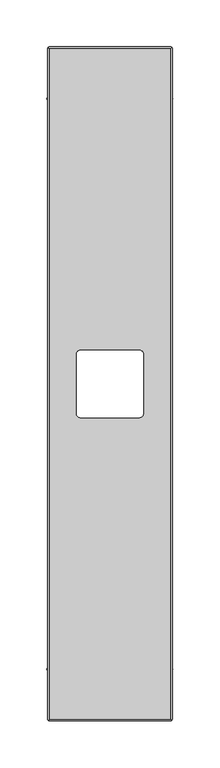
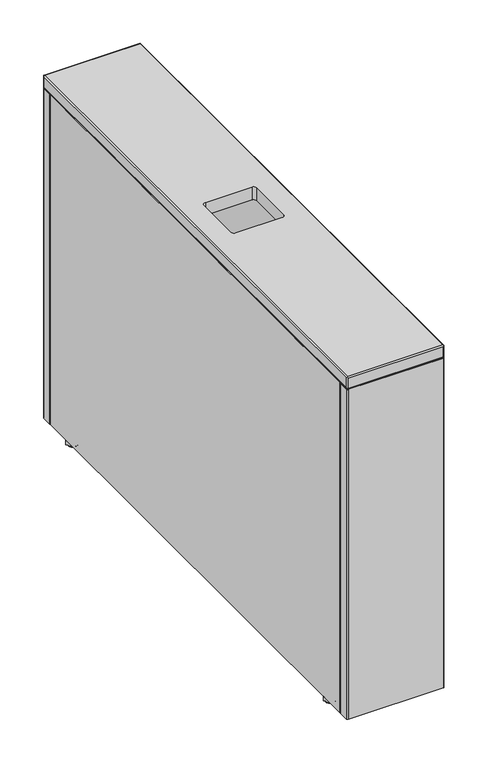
"""IFC4 building model written with IfcOpenShell, lengths in millimetres: furniture geometry, FREZZA_POP AD_Carter_for desk : Bracket_ZGBI - Embossed White."""

from ifc_helpers import new_model, si_unit, point, frame, frame_2d, origin, place, context, project, spatial, polyline, circle_curve, ellipse_curve, trimmed, segment, composite_curve, outline, extrude, source, transform, mapped, element, save
from ifc_brep_helpers import plane_surface, cylinder_surface, revolved_surface, advanced_brep


def furniture_1280791a(model_context):
    return source(origin(), model_context, "Body", "SolidModel", [
        advanced_brep(
        [(1738.25, 743.75, 0.0), (1744.5, 743.75, 0.0), (1750.75, 743.75, 0.0), (1737.25, 743.75, 1.0), (1751.75, 743.75, 1.0), (1737.25, 743.75, 2.5), (1751.75, 743.75, 2.5), (1744.5, 743.75, 2.5)],
        [
            (0, 1),
            (1, 2),
            (2, 0, circle_curve(frame((1744.5, 743.75, 0.0), z_axis=(0.0, 0.0, -1.0), x_axis=(1.0, 0.0, 0.0)), 6.25)),
            (0, 2, circle_curve(frame((1744.5, 743.75, 0.0), z_axis=(0.0, 0.0, -1.0), x_axis=(1.0, 0.0, 0.0)), 6.25)),
            (3, 0, circle_curve(frame((1738.25, 743.75, 1.0), z_axis=(0.0, -1.0, 0.0), x_axis=(-1.0, 0.0, 0.0)), 1.0)),
            (2, 4, circle_curve(frame((1750.75, 743.75, 1.0), z_axis=(0.0, -1.0, 0.0), x_axis=(1.0, 0.0, 0.0)), 1.0)),
            (4, 3, circle_curve(frame((1744.5, 743.75, 1.0), z_axis=(0.0, 0.0, -1.0), x_axis=(1.0, 0.0, 0.0)), 7.25)),
            (3, 4, circle_curve(frame((1744.5, 743.75, 1.0), z_axis=(0.0, 0.0, -1.0), x_axis=(1.0, 0.0, 0.0)), 7.25)),
            (5, 3),
            (4, 6),
            (6, 5, circle_curve(frame((1744.5, 743.75, 2.5), z_axis=(0.0, 0.0, -1.0), x_axis=(1.0, 0.0, 0.0)), 7.25)),
            (5, 6, circle_curve(frame((1744.5, 743.75, 2.5), z_axis=(0.0, 0.0, -1.0), x_axis=(1.0, 0.0, 0.0)), 7.25)),
            (7, 5),
            (6, 7),
        ],
        [
            plane_surface(frame((1744.5, 743.75, 0.0), z_axis=(0.0, 0.0, -1.0), x_axis=(1.0, 0.0, 0.0))),
            revolved_surface(trimmed(ellipse_curve(frame((1750.75, 743.75, 1.0), z_axis=(0.0, -1.0, 0.0), x_axis=(1.0, 0.0, 0.0)), 1.0, 1.0), [point((1750.75, 743.75, 0.0))], [point((1751.75, 743.75, 1.0))], True, "CARTESIAN"), (1744.5, 743.75, 2.5), (0.0, 0.0, 1.0)),
            cylinder_surface(frame((1744.5, 743.75, 2.5), z_axis=(0.0, 0.0, 1.0), x_axis=(1.0, 0.0, 0.0)), 7.25),
            plane_surface(frame((1744.5, 743.75, 2.5), z_axis=(0.0, 0.0, 1.0), x_axis=(1.0, 0.0, 0.0))),
        ],
        [
            (0, [[1, 2, 3]]),
            (0, [[-2, -1, 4]]),
            (1, [[5, -3, 6, 7]]),
            (1, [[-6, -4, -5, 8]]),
            (2, [[9, -7, 10, 11]]),
            (2, [[-10, -8, -9, 12]]),
            (3, [[13, -11, 14]]),
            (3, [[-14, -12, -13]]),
        ],
    ),
        extrude(outline(polyline([(1749.4074773, 735.25), (1739.5925227, 735.25), (1734.6850454, 743.75), (1739.5925227, 752.25), (1749.4074773, 752.25), (1754.3149546, 743.75), (1749.4074773, 735.25)])), frame((0.0, 0.0, 2.5), z_axis=(0.0, 0.0, 1.0), x_axis=(1.0, 0.0, 0.0)), (0.0, 0.0, 1.0), 5.5),
        advanced_brep(
        [(1629.5, 743.75, 0.0), (1635.75, 743.75, 0.0), (1623.25, 743.75, 0.0), (1636.75, 743.75, 1.0), (1622.25, 743.75, 1.0), (1636.75, 743.75, 2.5), (1622.25, 743.75, 2.5), (1629.5, 743.75, 2.5)],
        [
            (0, 1),
            (1, 2, circle_curve(frame((1629.5, 743.75, 0.0), z_axis=(0.0, 0.0, -1.0), x_axis=(-1.0, 0.0, 0.0)), 6.25)),
            (2, 0),
            (2, 1, circle_curve(frame((1629.5, 743.75, 0.0), z_axis=(0.0, 0.0, -1.0), x_axis=(-1.0, 0.0, 0.0)), 6.25)),
            (1, 3, circle_curve(frame((1635.75, 743.75, 1.0), z_axis=(0.0, -1.0, 0.0), x_axis=(1.0, 0.0, 0.0)), 1.0)),
            (3, 4, circle_curve(frame((1629.5, 743.75, 1.0), z_axis=(0.0, 0.0, -1.0), x_axis=(-1.0, 0.0, 0.0)), 7.25)),
            (4, 2, circle_curve(frame((1623.25, 743.75, 1.0), z_axis=(0.0, -1.0, 0.0), x_axis=(-1.0, 0.0, 0.0)), 1.0)),
            (4, 3, circle_curve(frame((1629.5, 743.75, 1.0), z_axis=(0.0, 0.0, -1.0), x_axis=(-1.0, 0.0, 0.0)), 7.25)),
            (3, 5),
            (5, 6, circle_curve(frame((1629.5, 743.75, 2.5), z_axis=(0.0, 0.0, -1.0), x_axis=(-1.0, 0.0, 0.0)), 7.25)),
            (6, 4),
            (6, 5, circle_curve(frame((1629.5, 743.75, 2.5), z_axis=(0.0, 0.0, -1.0), x_axis=(-1.0, 0.0, 0.0)), 7.25)),
            (5, 7),
            (7, 6),
        ],
        [
            plane_surface(frame((1629.5, 743.75, 0.0), z_axis=(0.0, 0.0, -1.0), x_axis=(-1.0, 0.0, 0.0))),
            revolved_surface(trimmed(ellipse_curve(frame((1623.25, 743.75, 1.0), z_axis=(0.0, -1.0, 0.0), x_axis=(-1.0, 0.0, 0.0)), 1.0, 1.0), [point((1622.25, 743.75, 1.0))], [point((1623.25, 743.75, 0.0))], True, "CARTESIAN"), (1629.5, 743.75, 2.5), (0.0, 0.0, -1.0)),
            cylinder_surface(frame((1629.5, 743.75, 2.5), z_axis=(0.0, 0.0, -1.0), x_axis=(-1.0, 0.0, 0.0)), 7.25),
            plane_surface(frame((1629.5, 743.75, 2.5), z_axis=(0.0, 0.0, 1.0), x_axis=(-1.0, 0.0, 0.0))),
        ],
        [
            (0, [[1, 2, 3]]),
            (0, [[-3, 4, -1]]),
            (1, [[5, 6, 7, -2]]),
            (1, [[-7, 8, -5, -4]]),
            (2, [[9, 10, 11, -6]]),
            (2, [[-11, 12, -9, -8]]),
            (3, [[13, 14, -10]]),
            (3, [[-14, -13, -12]]),
        ],
    ),
        extrude(outline(polyline([(1624.5925227, 735.25), (1619.6850454, 743.75), (1624.5925227, 752.25), (1634.4074773, 752.25), (1639.3149546, 743.75), (1634.4074773, 735.25), (1624.5925227, 735.25)])), frame((0.0, 0.0, 2.5), z_axis=(0.0, 0.0, 1.0), x_axis=(1.0, 0.0, 0.0)), (0.0, 0.0, 1.0), 5.5),
        advanced_brep(
        [(1744.5, 135.75, 0.0), (1738.25, 135.75, 0.0), (1750.75, 135.75, 0.0), (1737.25, 135.75, 1.0), (1751.75, 135.75, 1.0), (1737.25, 135.75, 2.5), (1751.75, 135.75, 2.5), (1744.5, 135.75, 2.5)],
        [
            (0, 1),
            (1, 2, circle_curve(frame((1744.5, 135.75, 0.0), z_axis=(0.0, 0.0, -1.0), x_axis=(1.0, 0.0, 0.0)), 6.25)),
            (2, 0),
            (2, 1, circle_curve(frame((1744.5, 135.75, 0.0), z_axis=(0.0, 0.0, -1.0), x_axis=(1.0, 0.0, 0.0)), 6.25)),
            (1, 3, circle_curve(frame((1738.25, 135.75, 1.0), z_axis=(0.0, 1.0, 0.0), x_axis=(-1.0, 0.0, 0.0)), 1.0)),
            (3, 4, circle_curve(frame((1744.5, 135.75, 1.0), z_axis=(0.0, 0.0, -1.0), x_axis=(1.0, 0.0, 0.0)), 7.25)),
            (4, 2, circle_curve(frame((1750.75, 135.75, 1.0), z_axis=(0.0, 1.0, 0.0), x_axis=(1.0, 0.0, 0.0)), 1.0)),
            (4, 3, circle_curve(frame((1744.5, 135.75, 1.0), z_axis=(0.0, 0.0, -1.0), x_axis=(1.0, 0.0, 0.0)), 7.25)),
            (3, 5),
            (5, 6, circle_curve(frame((1744.5, 135.75, 2.5), z_axis=(0.0, 0.0, -1.0), x_axis=(1.0, 0.0, 0.0)), 7.25)),
            (6, 4),
            (6, 5, circle_curve(frame((1744.5, 135.75, 2.5), z_axis=(0.0, 0.0, -1.0), x_axis=(1.0, 0.0, 0.0)), 7.25)),
            (5, 7),
            (7, 6),
        ],
        [
            plane_surface(frame((1744.5, 135.75, 0.0), z_axis=(0.0, 0.0, -1.0), x_axis=(1.0, 0.0, 0.0))),
            revolved_surface(trimmed(ellipse_curve(frame((1750.75, 135.75, 1.0), z_axis=(0.0, 1.0, 0.0), x_axis=(1.0, 0.0, 0.0)), 1.0, 1.0), [point((1751.75, 135.75, 1.0))], [point((1750.75, 135.75, 0.0))], True, "CARTESIAN"), (1744.5, 135.75, 2.5), (0.0, 0.0, -1.0)),
            cylinder_surface(frame((1744.5, 135.75, 2.5), z_axis=(0.0, 0.0, -1.0), x_axis=(1.0, 0.0, 0.0)), 7.25),
            plane_surface(frame((1744.5, 135.75, 2.5), z_axis=(0.0, 0.0, 1.0), x_axis=(1.0, 0.0, 0.0))),
        ],
        [
            (0, [[1, 2, 3]]),
            (0, [[-3, 4, -1]]),
            (1, [[5, 6, 7, -2]]),
            (1, [[-7, 8, -5, -4]]),
            (2, [[9, 10, 11, -6]]),
            (2, [[-11, 12, -9, -8]]),
            (3, [[13, 14, -10]]),
            (3, [[-14, -13, -12]]),
        ],
    ),
        extrude(outline(polyline([(1749.4074773, 144.25), (1754.3149546, 135.75), (1749.4074773, 127.25), (1739.5925227, 127.25), (1734.6850454, 135.75), (1739.5925227, 144.25), (1749.4074773, 144.25)])), frame((0.0, 0.0, 2.5), z_axis=(0.0, 0.0, 1.0), x_axis=(1.0, 0.0, 0.0)), (0.0, 0.0, 1.0), 5.5),
        advanced_brep(
        [(1635.75, 135.75, 0.0), (1629.5, 135.75, 0.0), (1623.25, 135.75, 0.0), (1636.75, 135.75, 1.0), (1622.25, 135.75, 1.0), (1636.75, 135.75, 2.5), (1622.25, 135.75, 2.5), (1629.5, 135.75, 2.5)],
        [
            (0, 1),
            (1, 2),
            (2, 0, circle_curve(frame((1629.5, 135.75, 0.0), z_axis=(0.0, 0.0, -1.0), x_axis=(-1.0, 0.0, 0.0)), 6.25)),
            (0, 2, circle_curve(frame((1629.5, 135.75, 0.0), z_axis=(0.0, 0.0, -1.0), x_axis=(-1.0, 0.0, 0.0)), 6.25)),
            (3, 0, circle_curve(frame((1635.75, 135.75, 1.0), z_axis=(0.0, 1.0, 0.0), x_axis=(1.0, 0.0, 0.0)), 1.0)),
            (2, 4, circle_curve(frame((1623.25, 135.75, 1.0), z_axis=(0.0, 1.0, 0.0), x_axis=(-1.0, 0.0, 0.0)), 1.0)),
            (4, 3, circle_curve(frame((1629.5, 135.75, 1.0), z_axis=(0.0, 0.0, -1.0), x_axis=(-1.0, 0.0, 0.0)), 7.25)),
            (3, 4, circle_curve(frame((1629.5, 135.75, 1.0), z_axis=(0.0, 0.0, -1.0), x_axis=(-1.0, 0.0, 0.0)), 7.25)),
            (5, 3),
            (4, 6),
            (6, 5, circle_curve(frame((1629.5, 135.75, 2.5), z_axis=(0.0, 0.0, -1.0), x_axis=(-1.0, 0.0, 0.0)), 7.25)),
            (5, 6, circle_curve(frame((1629.5, 135.75, 2.5), z_axis=(0.0, 0.0, -1.0), x_axis=(-1.0, 0.0, 0.0)), 7.25)),
            (7, 5),
            (6, 7),
        ],
        [
            plane_surface(frame((1629.5, 135.75, 0.0), z_axis=(0.0, 0.0, -1.0), x_axis=(-1.0, 0.0, 0.0))),
            revolved_surface(trimmed(ellipse_curve(frame((1623.25, 135.75, 1.0), z_axis=(0.0, 1.0, 0.0), x_axis=(-1.0, 0.0, 0.0)), 1.0, 1.0), [point((1623.25, 135.75, 0.0))], [point((1622.25, 135.75, 1.0))], True, "CARTESIAN"), (1629.5, 135.75, 2.5), (0.0, 0.0, 1.0)),
            cylinder_surface(frame((1629.5, 135.75, 2.5), z_axis=(0.0, 0.0, 1.0), x_axis=(-1.0, 0.0, 0.0)), 7.25),
            plane_surface(frame((1629.5, 135.75, 2.5), z_axis=(0.0, 0.0, 1.0), x_axis=(-1.0, 0.0, 0.0))),
        ],
        [
            (0, [[1, 2, 3]]),
            (0, [[-2, -1, 4]]),
            (1, [[5, -3, 6, 7]]),
            (1, [[-6, -4, -5, 8]]),
            (2, [[9, -7, 10, 11]]),
            (2, [[-10, -8, -9, 12]]),
            (3, [[13, -11, 14]]),
            (3, [[-14, -12, -13]]),
        ],
    ),
        extrude(outline(polyline([(1624.5925227, 144.25), (1634.4074773, 144.25), (1639.3149546, 135.75), (1634.4074773, 127.25), (1624.5925227, 127.25), (1619.6850454, 135.75), (1624.5925227, 144.25)])), frame((0.0, 0.0, 2.5), z_axis=(0.0, 0.0, 1.0), x_axis=(1.0, 0.0, 0.0)), (0.0, 0.0, 1.0), 5.5),
        advanced_brep(
        [(1751.5, 796.75, 483.0), (1751.5, 82.75, 483.0), (1622.5, 82.75, 483.0), (1622.5, 796.75, 483.0), (1718.75, 404.0, 483.0), (1722.75, 408.0, 483.0), (1722.75, 471.5, 483.0), (1718.75, 475.5, 483.0), (1655.25, 475.5, 483.0), (1651.25, 471.5, 483.0), (1651.25, 408.0, 483.0), (1655.25, 404.0, 483.0), (1622.5, 796.75, 501.0), (1622.5, 82.75, 501.0), (1751.5, 82.75, 501.0), (1751.5, 796.75, 501.0), (1655.25, 404.0, 501.0), (1651.25, 408.0, 501.0), (1651.25, 471.5, 501.0), (1655.25, 475.5, 501.0), (1718.75, 475.5, 501.0), (1722.75, 471.5, 501.0), (1722.75, 408.0, 501.0), (1718.75, 404.0, 501.0), (1753.5, 82.75, 499.0), (1752.9142136, 81.3357864, 500.4142136), (1751.5, 80.75, 499.0), (1751.5, 80.75, 485.0), (1752.9142136, 81.3357864, 483.5857864), (1753.5, 82.75, 485.0), (1622.5, 80.75, 499.0), (1622.5, 80.75, 485.0), (1621.0857864, 81.3357864, 500.4142136), (1620.5, 82.75, 499.0), (1620.5, 82.75, 485.0), (1621.0857864, 81.3357864, 483.5857864), (1620.5, 796.75, 499.0), (1620.5, 796.75, 485.0), (1621.0857864, 798.1642136, 500.4142136), (1622.5, 798.75, 499.0), (1622.5, 798.75, 485.0), (1621.0857864, 798.1642136, 483.5857864), (1751.5, 798.75, 499.0), (1751.5, 798.75, 485.0), (1752.9142136, 798.1642136, 500.4142136), (1753.5, 796.75, 499.0), (1753.5, 796.75, 485.0), (1752.9142136, 798.1642136, 483.5857864)],
        [
            (0, 1),
            (1, 2),
            (2, 3),
            (3, 0),
            (4, 5, circle_curve(frame((1718.75, 408.0, 483.0), z_axis=(0.0, 0.0, 1.0), x_axis=(1.0, 0.0, 0.0)), 4.0)),
            (5, 6),
            (6, 7, circle_curve(frame((1718.75, 471.5, 483.0), z_axis=(0.0, 0.0, 1.0), x_axis=(1.0, 0.0, 0.0)), 4.0)),
            (7, 8),
            (8, 9, circle_curve(frame((1655.25, 471.5, 483.0), z_axis=(0.0, 0.0, 1.0), x_axis=(1.0, 0.0, 0.0)), 4.0)),
            (9, 10),
            (10, 11, circle_curve(frame((1655.25, 408.0, 483.0), z_axis=(0.0, 0.0, 1.0), x_axis=(1.0, 0.0, 0.0)), 4.0)),
            (11, 4),
            (12, 13),
            (13, 14),
            (14, 15),
            (15, 12),
            (16, 17, circle_curve(frame((1655.25, 408.0, 501.0), z_axis=(0.0, 0.0, -1.0), x_axis=(1.0, 0.0, 0.0)), 4.0)),
            (17, 18),
            (18, 19, circle_curve(frame((1655.25, 471.5, 501.0), z_axis=(0.0, 0.0, -1.0), x_axis=(1.0, 0.0, 0.0)), 4.0)),
            (19, 20),
            (20, 21, circle_curve(frame((1718.75, 471.5, 501.0), z_axis=(0.0, 0.0, -1.0), x_axis=(1.0, 0.0, 0.0)), 4.0)),
            (21, 22),
            (22, 23, circle_curve(frame((1718.75, 408.0, 501.0), z_axis=(0.0, 0.0, -1.0), x_axis=(1.0, 0.0, 0.0)), 4.0)),
            (23, 16),
            (24, 25, ellipse_curve(frame((1751.5, 82.75, 499.0), z_axis=(0.0, -0.7071067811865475, -0.7071067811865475), x_axis=(0.0, -0.7071067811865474, 0.7071067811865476)), 2.8284271, 2.0)),
            (25, 26, ellipse_curve(frame((1751.5, 82.75, 499.0), z_axis=(0.7071067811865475, 0.0, -0.7071067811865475), x_axis=(0.7071067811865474, 0.0, 0.7071067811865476)), 2.8284271, 2.0)),
            (26, 27),
            (27, 28, ellipse_curve(frame((1751.5, 82.75, 485.0), z_axis=(0.7071067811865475, 0.0, 0.7071067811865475), x_axis=(-0.7071067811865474, 0.0, 0.7071067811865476)), 2.8284271, 2.0)),
            (28, 29, ellipse_curve(frame((1751.5, 82.75, 485.0), z_axis=(0.0, -0.7071067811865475, 0.7071067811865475), x_axis=(0.0, 0.7071067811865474, 0.7071067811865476)), 2.8284271, 2.0)),
            (29, 24),
            (26, 30),
            (30, 31),
            (31, 27),
            (30, 32, ellipse_curve(frame((1622.5, 82.75, 499.0), z_axis=(-0.7071067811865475, 0.0, -0.7071067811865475), x_axis=(-0.7071067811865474, 0.0, 0.7071067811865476)), 2.8284271, 2.0)),
            (32, 33, ellipse_curve(frame((1622.5, 82.75, 499.0), z_axis=(0.0, -0.7071067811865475, -0.7071067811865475), x_axis=(0.0, -0.7071067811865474, 0.7071067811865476)), 2.8284271, 2.0)),
            (33, 34),
            (34, 35, ellipse_curve(frame((1622.5, 82.75, 485.0), z_axis=(0.0, -0.7071067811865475, 0.7071067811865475), x_axis=(0.0, 0.7071067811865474, 0.7071067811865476)), 2.8284271, 2.0)),
            (35, 31, ellipse_curve(frame((1622.5, 82.75, 485.0), z_axis=(-0.7071067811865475, 0.0, 0.7071067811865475), x_axis=(0.7071067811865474, 0.0, 0.7071067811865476)), 2.8284271, 2.0)),
            (33, 36),
            (36, 37),
            (37, 34),
            (36, 38, ellipse_curve(frame((1622.5, 796.75, 499.0), z_axis=(0.0, 0.7071067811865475, -0.7071067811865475), x_axis=(0.0, 0.7071067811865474, 0.7071067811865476)), 2.8284271, 2.0)),
            (38, 39, ellipse_curve(frame((1622.5, 796.75, 499.0), z_axis=(-0.7071067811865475, 0.0, -0.7071067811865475), x_axis=(-0.7071067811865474, 0.0, 0.7071067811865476)), 2.8284271, 2.0)),
            (39, 40),
            (40, 41, ellipse_curve(frame((1622.5, 796.75, 485.0), z_axis=(-0.7071067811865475, 0.0, 0.7071067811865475), x_axis=(0.7071067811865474, 0.0, 0.7071067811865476)), 2.8284271, 2.0)),
            (41, 37, ellipse_curve(frame((1622.5, 796.75, 485.0), z_axis=(0.0, 0.7071067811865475, 0.7071067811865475), x_axis=(0.0, -0.7071067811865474, 0.7071067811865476)), 2.8284271, 2.0)),
            (39, 42),
            (42, 43),
            (43, 40),
            (42, 44, ellipse_curve(frame((1751.5, 796.75, 499.0), z_axis=(0.7071067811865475, 0.0, -0.7071067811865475), x_axis=(0.7071067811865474, 0.0, 0.7071067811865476)), 2.8284271, 2.0)),
            (44, 45, ellipse_curve(frame((1751.5, 796.75, 499.0), z_axis=(0.0, 0.7071067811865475, -0.7071067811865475), x_axis=(0.0, 0.7071067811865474, 0.7071067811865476)), 2.8284271, 2.0)),
            (45, 46),
            (46, 47, ellipse_curve(frame((1751.5, 796.75, 485.0), z_axis=(0.0, 0.7071067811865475, 0.7071067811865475), x_axis=(0.0, -0.7071067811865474, 0.7071067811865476)), 2.8284271, 2.0)),
            (47, 43, ellipse_curve(frame((1751.5, 796.75, 485.0), z_axis=(0.7071067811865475, 0.0, 0.7071067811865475), x_axis=(-0.7071067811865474, 0.0, 0.7071067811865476)), 2.8284271, 2.0)),
            (29, 46),
            (45, 24),
            (15, 44, ellipse_curve(frame((1751.5, 796.75, 499.0), z_axis=(-0.7071067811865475, 0.7071067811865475, 0.0), x_axis=(-0.7071067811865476, -0.7071067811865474, 0.0)), 2.8284271, 2.0)),
            (38, 12, ellipse_curve(frame((1622.5, 796.75, 499.0), z_axis=(0.7071067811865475, 0.7071067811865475, 0.0), x_axis=(-0.7071067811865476, 0.7071067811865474, 0.0)), 2.8284271, 2.0)),
            (47, 0, ellipse_curve(frame((1751.5, 796.75, 485.0), z_axis=(-0.7071067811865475, 0.7071067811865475, 0.0), x_axis=(-0.7071067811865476, -0.7071067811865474, 0.0)), 2.8284271, 2.0)),
            (3, 41, ellipse_curve(frame((1622.5, 796.75, 485.0), z_axis=(0.7071067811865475, 0.7071067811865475, 0.0), x_axis=(-0.7071067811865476, 0.7071067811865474, 0.0)), 2.8284271, 2.0)),
            (32, 13, ellipse_curve(frame((1622.5, 82.75, 499.0), z_axis=(-0.7071067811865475, 0.7071067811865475, 0.0), x_axis=(-0.7071067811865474, -0.7071067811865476, 0.0)), 2.8284271, 2.0)),
            (2, 35, ellipse_curve(frame((1622.5, 82.75, 485.0), z_axis=(-0.7071067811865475, 0.7071067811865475, 0.0), x_axis=(-0.7071067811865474, -0.7071067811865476, 0.0)), 2.8284271, 2.0)),
            (25, 14, ellipse_curve(frame((1751.5, 82.75, 499.0), z_axis=(-0.7071067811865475, -0.7071067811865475, 0.0), x_axis=(0.7071067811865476, -0.7071067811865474, 0.0)), 2.8284271, 2.0)),
            (1, 28, ellipse_curve(frame((1751.5, 82.75, 485.0), z_axis=(-0.7071067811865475, -0.7071067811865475, 0.0), x_axis=(0.7071067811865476, -0.7071067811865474, 0.0)), 2.8284271, 2.0)),
            (11, 16),
            (23, 4),
            (10, 17),
            (9, 18),
            (8, 19),
            (7, 20),
            (6, 21),
            (5, 22),
        ],
        [
            plane_surface(frame((1751.5, 84.75, 483.0), z_axis=(0.0, 0.0, -1.0), x_axis=(-1.0, 0.0, 0.0))),
            plane_surface(frame((1751.5, 84.75, 501.0), z_axis=(0.0, 0.0, 1.0), x_axis=(1.0, 0.0, 0.0))),
            cylinder_surface(frame((1751.5, 82.75, 483.0), z_axis=(0.0, 0.0, 1.0), x_axis=(0.0, 1.0, 0.0)), 2.0),
            plane_surface(frame((1751.5, 80.75, 501.0), z_axis=(0.0, -1.0, 0.0), x_axis=(0.0, 0.0, -1.0))),
            cylinder_surface(frame((1622.5, 82.75, 483.0), z_axis=(0.0, 0.0, 1.0), x_axis=(0.0, 1.0, 0.0)), 2.0),
            plane_surface(frame((1620.5, 82.75, 501.0), z_axis=(-1.0, 0.0, 0.0), x_axis=(0.0, 0.0, -1.0))),
            cylinder_surface(frame((1622.5, 796.75, 483.0), z_axis=(0.0, 0.0, 1.0), x_axis=(0.0, 1.0, 0.0)), 2.0),
            plane_surface(frame((1622.5, 798.75, 501.0), z_axis=(0.0, 1.0, 0.0), x_axis=(0.0, 0.0, -1.0))),
            cylinder_surface(frame((1751.5, 796.75, 483.0), z_axis=(0.0, 0.0, 1.0), x_axis=(0.0, 1.0, 0.0)), 2.0),
            plane_surface(frame((1753.5, 796.75, 501.0), z_axis=(1.0, 0.0, 0.0), x_axis=(0.0, 0.0, -1.0))),
            cylinder_surface(frame((1753.5, 796.75, 499.0), z_axis=(-1.0, 0.0, 0.0), x_axis=(0.0, 1.0, 0.0)), 2.0),
            cylinder_surface(frame((1753.5, 796.75, 485.0), z_axis=(-1.0, 0.0, 0.0), x_axis=(0.0, 1.0, 0.0)), 2.0),
            cylinder_surface(frame((1622.5, 798.75, 499.0), z_axis=(0.0, -1.0, 0.0), x_axis=(-1.0, 0.0, 0.0)), 2.0),
            cylinder_surface(frame((1622.5, 798.75, 485.0), z_axis=(0.0, -1.0, 0.0), x_axis=(-1.0, 0.0, 0.0)), 2.0),
            cylinder_surface(frame((1620.5, 82.75, 499.0), z_axis=(1.0, 0.0, 0.0), x_axis=(0.0, -1.0, 0.0)), 2.0),
            cylinder_surface(frame((1620.5, 82.75, 485.0), z_axis=(1.0, 0.0, 0.0), x_axis=(0.0, -1.0, 0.0)), 2.0),
            cylinder_surface(frame((1751.5, 80.75, 499.0), z_axis=(0.0, 1.0, 0.0), x_axis=(1.0, 0.0, 0.0)), 2.0),
            cylinder_surface(frame((1751.5, 80.75, 485.0), z_axis=(0.0, 1.0, 0.0), x_axis=(1.0, 0.0, 0.0)), 2.0),
            plane_surface(frame((1655.25, 404.0, 483.0), z_axis=(0.0, 1.0, 0.0), x_axis=(0.0, 0.0, 1.0))),
            revolved_surface(polyline([(1659.25, 408.0, 483.0), (1659.25, 408.0, 501.0)]), (1655.25, 408.0, 501.0), (0.0, 0.0, -1.0)),
            plane_surface(frame((1651.25, 471.5, 483.0), z_axis=(1.0, 0.0, 0.0), x_axis=(0.0, 0.0, 1.0))),
            revolved_surface(polyline([(1659.25, 471.5, 483.0), (1659.25, 471.5, 501.0)]), (1655.25, 471.5, 501.0), (0.0, 0.0, -1.0)),
            plane_surface(frame((1718.75, 475.5, 483.0), z_axis=(0.0, -1.0, 0.0), x_axis=(0.0, 0.0, 1.0))),
            revolved_surface(polyline([(1722.75, 471.5, 483.0), (1722.75, 471.5, 501.0)]), (1718.75, 471.5, 501.0), (0.0, 0.0, -1.0)),
            plane_surface(frame((1722.75, 408.0, 483.0), z_axis=(-1.0, 0.0, 0.0), x_axis=(0.0, 0.0, 1.0))),
            revolved_surface(polyline([(1722.75, 408.0, 483.0), (1722.75, 408.0, 501.0)]), (1718.75, 408.0, 501.0), (0.0, 0.0, -1.0)),
        ],
        [
            (0, [[1, 2, 3, 4], [5, 6, 7, 8, 9, 10, 11, 12]]),
            (1, [[13, 14, 15, 16], [17, 18, 19, 20, 21, 22, 23, 24]]),
            (2, [[25, 26, 27, 28, 29, 30]]),
            (3, [[31, 32, 33, -27]]),
            (4, [[34, 35, 36, 37, 38, -32]]),
            (5, [[39, 40, 41, -36]]),
            (6, [[42, 43, 44, 45, 46, -40]]),
            (7, [[47, 48, 49, -44]]),
            (8, [[50, 51, 52, 53, 54, -48]]),
            (9, [[55, -52, 56, -30]]),
            (10, [[-16, 57, -50, -47, -43, 58]]),
            (11, [[-45, -49, -54, 59, -4, 60]]),
            (12, [[-42, -39, -35, 61, -13, -58]]),
            (13, [[-3, 62, -37, -41, -46, -60]]),
            (14, [[-34, -31, -26, 63, -14, -61]]),
            (15, [[-2, 64, -28, -33, -38, -62]]),
            (16, [[-25, -56, -51, -57, -15, -63]]),
            (17, [[-1, -59, -53, -55, -29, -64]]),
            (18, [[-12, 65, -24, 66]]),
            (19, [[-11, 67, -17, -65]]),
            (20, [[-10, 68, -18, -67]]),
            (21, [[-9, 69, -19, -68]]),
            (22, [[-8, 70, -20, -69]]),
            (23, [[-7, 71, -21, -70]]),
            (24, [[-6, 72, -22, -71]]),
            (25, [[-23, -72, -5, -66]]),
        ],
    ),
        extrude(outline(composite_curve([segment(polyline([(1622.5, 98.75), (1751.5, 98.75)]), True, "CONTINUOUS"), segment(trimmed(circle_curve(frame_2d((1751.5, 96.75)), 2.0), [point((1751.5, 98.75))], [point((1753.5, 96.75))], False, "CARTESIAN"), True, "CONTINUOUS"), segment(polyline([(1753.5, 96.75), (1753.5, 82.75)]), True, "CONTINUOUS"), segment(trimmed(circle_curve(frame_2d((1751.5, 82.75)), 2.0), [point((1753.5, 82.75))], [point((1751.5, 80.75))], False, "CARTESIAN"), True, "CONTINUOUS"), segment(polyline([(1751.5, 80.75), (1622.5, 80.75)]), True, "CONTINUOUS"), segment(trimmed(circle_curve(frame_2d((1622.5, 82.75)), 2.0), [point((1622.5, 80.75))], [point((1620.5, 82.75))], False, "CARTESIAN"), True, "CONTINUOUS"), segment(polyline([(1620.5, 82.75), (1620.5, 96.75)]), True, "CONTINUOUS"), segment(trimmed(circle_curve(frame_2d((1622.5, 96.75)), 2.0), [point((1620.5, 96.75))], [point((1622.5, 98.75))], False, "CARTESIAN"), True, "CONTINUOUS")], self_intersect=False)), frame((0.0, 0.0, 8.0), z_axis=(0.0, 0.0, 1.0), x_axis=(1.0, 0.0, 0.0)), (0.0, 0.0, 1.0), 475.0),
        extrude(outline(composite_curve([segment(trimmed(circle_curve(frame_2d((1622.5, 782.75)), 2.0), [point((1622.5, 780.75))], [point((1620.5, 782.75))], False, "CARTESIAN"), True, "CONTINUOUS"), segment(polyline([(1620.5, 782.75), (1620.5, 796.75)]), True, "CONTINUOUS"), segment(trimmed(circle_curve(frame_2d((1622.5, 796.75)), 2.0), [point((1620.5, 796.75))], [point((1622.5, 798.75))], False, "CARTESIAN"), True, "CONTINUOUS"), segment(polyline([(1622.5, 798.75), (1751.5, 798.75)]), True, "CONTINUOUS"), segment(trimmed(circle_curve(frame_2d((1751.5, 796.75)), 2.0), [point((1751.5, 798.75))], [point((1753.5, 796.75))], False, "CARTESIAN"), True, "CONTINUOUS"), segment(polyline([(1753.5, 796.75), (1753.5, 782.75)]), True, "CONTINUOUS"), segment(trimmed(circle_curve(frame_2d((1751.5, 782.75)), 2.0), [point((1753.5, 782.75))], [point((1751.5, 780.75))], False, "CARTESIAN"), True, "CONTINUOUS"), segment(polyline([(1751.5, 780.75), (1622.5, 780.75)]), True, "CONTINUOUS")], self_intersect=False)), frame((0.0, 0.0, 8.0), z_axis=(0.0, 0.0, 1.0), x_axis=(1.0, 0.0, 0.0)), (0.0, 0.0, 1.0), 475.0),
        extrude(outline(polyline([(1735.5, 780.75), (1753.5, 780.75), (1753.5, 98.75), (1735.5, 98.75), (1735.5, 780.75)])), frame((0.0, 0.0, 8.0), z_axis=(0.0, 0.0, 1.0), x_axis=(1.0, 0.0, 0.0)), (0.0, 0.0, 1.0), 475.0),
        extrude(outline(polyline([(1620.5, 780.75), (1638.5, 780.75), (1638.5, 98.75), (1620.5, 98.75), (1620.5, 780.75)])), frame((0.0, 0.0, 8.0), z_axis=(0.0, 0.0, 1.0), x_axis=(1.0, 0.0, 0.0)), (0.0, 0.0, 1.0), 475.0),
    ])


if __name__ == "__main__":
    model = new_model("IFC4")
    model_context = context("Model", 3, world=origin())
    ifc_project = project(units=[si_unit("LENGTHUNIT", "METRE", prefix="MILLI")], contexts=[model_context])
    site = spatial("IfcSite", under=ifc_project)
    building = spatial("IfcBuilding", under=site)
    placement = place(None, origin())
    furniture_shape = furniture_1280791a(model_context)
    element("IfcFurniture", 1, ObjectType="FREZZA_POP AD_Carter_for desk : Bracket_ZGBI - Embossed White", at=placement, inside=building, context=model_context, shape_type="MappedRepresentation", body=[
        mapped(furniture_shape, transform((0.0, 0.0, 0.0), x_axis=(1.0, 0.0, 0.0), y_axis=(0.0, 1.0, 0.0), z_axis=(0.0, 0.0, 1.0))),
    ])
    save(model, "model.ifc")
